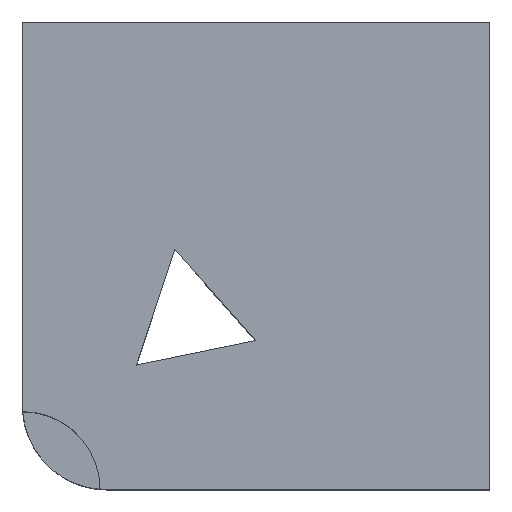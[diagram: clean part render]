
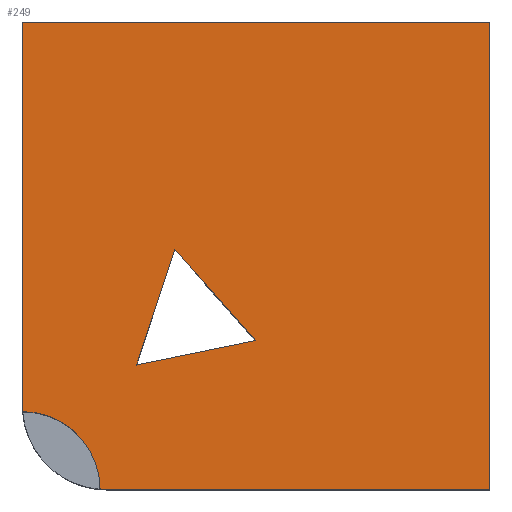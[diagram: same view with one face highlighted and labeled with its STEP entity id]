
A CAD part, top view. The second image highlights one B-rep face of the part: STEP entity #249.
In plain terms, the highlighted planar face has unit normal (0, 0, 1).
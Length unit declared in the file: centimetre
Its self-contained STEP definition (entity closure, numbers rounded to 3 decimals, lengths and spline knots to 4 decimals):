
#21 = LINE ( 'NONE', #276, #1113 ) ;
#23 = DIRECTION ( 'NONE',  ( 0., 0., 1. ) ) ;
#51 = EDGE_CURVE ( 'NONE', #309, #1109, #1362, .T. ) ;
#59 = AXIS2_PLACEMENT_3D ( 'NONE', #1436, #524, #1534 ) ;
#61 = DIRECTION ( 'NONE',  ( 1., 0., 0. ) ) ;
#72 = CARTESIAN_POINT ( 'NONE',  ( 1000., 1000., 1000. ) ) ;
#75 = FACE_BOUND ( 'NONE', #206, .T. ) ;
#81 = CARTESIAN_POINT ( 'NONE',  ( 1000., 0., 1000. ) ) ;
#85 = CARTESIAN_POINT ( 'NONE',  ( 0., 179.6337, 1000. ) ) ;
#90 = CIRCLE ( 'NONE', #1006, 166.1518 ) ;
#119 = VECTOR ( 'NONE', #557, 100. ) ;
#151 = DIRECTION ( 'NONE',  ( 1., 0., 0. ) ) ;
#153 = EDGE_CURVE ( 'NONE', #382, #1584, #21, .T. ) ;
#191 = CIRCLE ( 'NONE', #1115, 179.6337 ) ;
#202 = CARTESIAN_POINT ( 'NONE',  ( 0.5067, 166.151, 1000. ) ) ;
#206 = EDGE_LOOP ( 'NONE', ( #1414, #1523, #1412 ) ) ;
#227 = VERTEX_POINT ( 'NONE', #202 ) ;
#230 = LINE ( 'NONE', #734, #822 ) ;
#234 = VERTEX_POINT ( 'NONE', #85 ) ;
#249 = ADVANCED_FACE ( 'NONE', ( #1085, #75 ), #689, .T. ) ;
#276 = CARTESIAN_POINT ( 'NONE',  ( 0., 0., 1000. ) ) ;
#309 = VERTEX_POINT ( 'NONE', #1243 ) ;
#314 = AXIS2_PLACEMENT_3D ( 'NONE', #334, #1580, #833 ) ;
#334 = CARTESIAN_POINT ( 'NONE',  ( 0., 0., 1000. ) ) ;
#352 = LINE ( 'NONE', #858, #1475 ) ;
#379 = CARTESIAN_POINT ( 'NONE',  ( 179.6337, 179.6337, 1000. ) ) ;
#382 = VERTEX_POINT ( 'NONE', #1259 ) ;
#392 = VECTOR ( 'NONE', #1390, 100. ) ;
#403 = CARTESIAN_POINT ( 'NONE',  ( 244.0892, 265.7766, 1000. ) ) ;
#426 = VERTEX_POINT ( 'NONE', #528 ) ;
#432 = EDGE_CURVE ( 'NONE', #426, #309, #1544, .T. ) ;
#438 = CARTESIAN_POINT ( 'NONE',  ( 326.4505, 513.2893, 1000. ) ) ;
#463 = LINE ( 'NONE', #1000, #882 ) ;
#469 = VERTEX_POINT ( 'NONE', #1169 ) ;
#524 = DIRECTION ( 'NONE',  ( 0., 0., 1. ) ) ;
#528 = CARTESIAN_POINT ( 'NONE',  ( 499.6221, 318.206, 1000. ) ) ;
#530 = ORIENTED_EDGE ( 'NONE', *, *, #1367, .F. ) ;
#554 = DIRECTION ( 'NONE',  ( 0.316, 0.949, 0. ) ) ;
#557 = DIRECTION ( 'NONE',  ( 0., 1., 0. ) ) ;
#640 = VERTEX_POINT ( 'NONE', #72 ) ;
#689 = PLANE ( 'NONE',  #314 ) ;
#727 = EDGE_CURVE ( 'NONE', #1368, #234, #463, .T. ) ;
#734 = CARTESIAN_POINT ( 'NONE',  ( 0., 1000., 1000. ) ) ;
#769 = CIRCLE ( 'NONE', #59, 179.6337 ) ;
#784 = EDGE_CURVE ( 'NONE', #1109, #426, #352, .T. ) ;
#788 = EDGE_CURVE ( 'NONE', #640, #1368, #230, .T. ) ;
#803 = EDGE_CURVE ( 'NONE', #234, #227, #769, .T. ) ;
#814 = CARTESIAN_POINT ( 'NONE',  ( 326.4505, 513.2893, 1000. ) ) ;
#822 = VECTOR ( 'NONE', #1234, 100. ) ;
#833 = DIRECTION ( 'NONE',  ( 1., 0., 0. ) ) ;
#835 = EDGE_CURVE ( 'NONE', #469, #382, #191, .T. ) ;
#858 = CARTESIAN_POINT ( 'NONE',  ( 499.6221, 318.206, 1000. ) ) ;
#878 = CARTESIAN_POINT ( 'NONE',  ( 0., 0., 1000. ) ) ;
#882 = VECTOR ( 'NONE', #1125, 100. ) ;
#891 = EDGE_CURVE ( 'NONE', #1584, #640, #1278, .T. ) ;
#994 = DIRECTION ( 'NONE',  ( 1., 0., 0. ) ) ;
#1000 = CARTESIAN_POINT ( 'NONE',  ( 0., 1000., 1000. ) ) ;
#1006 = AXIS2_PLACEMENT_3D ( 'NONE', #878, #23, #151 ) ;
#1010 = CARTESIAN_POINT ( 'NONE',  ( 1000., 1000., 1000. ) ) ;
#1058 = ORIENTED_EDGE ( 'NONE', *, *, #803, .T. ) ;
#1085 = FACE_OUTER_BOUND ( 'NONE', #1149, .T. ) ;
#1109 = VERTEX_POINT ( 'NONE', #814 ) ;
#1113 = VECTOR ( 'NONE', #994, 100. ) ;
#1115 = AXIS2_PLACEMENT_3D ( 'NONE', #379, #1403, #61 ) ;
#1117 = ORIENTED_EDGE ( 'NONE', *, *, #788, .T. ) ;
#1125 = DIRECTION ( 'NONE',  ( 0., -1., 0. ) ) ;
#1149 = EDGE_LOOP ( 'NONE', ( #530, #1510, #1353, #1189, #1117, #1485, #1058 ) ) ;
#1169 = CARTESIAN_POINT ( 'NONE',  ( 166.151, 0.5067, 1000. ) ) ;
#1189 = ORIENTED_EDGE ( 'NONE', *, *, #891, .T. ) ;
#1234 = DIRECTION ( 'NONE',  ( -1., 0., 0. ) ) ;
#1243 = CARTESIAN_POINT ( 'NONE',  ( 244.0892, 265.7766, 1000. ) ) ;
#1259 = CARTESIAN_POINT ( 'NONE',  ( 179.6337, 0., 1000. ) ) ;
#1278 = LINE ( 'NONE', #1010, #119 ) ;
#1353 = ORIENTED_EDGE ( 'NONE', *, *, #153, .T. ) ;
#1362 = LINE ( 'NONE', #438, #1581 ) ;
#1367 = EDGE_CURVE ( 'NONE', #469, #227, #90, .T. ) ;
#1368 = VERTEX_POINT ( 'NONE', #1633 ) ;
#1372 = DIRECTION ( 'NONE',  ( 0.664, -0.748, 0. ) ) ;
#1390 = DIRECTION ( 'NONE',  ( -0.98, -0.201, 0. ) ) ;
#1403 = DIRECTION ( 'NONE',  ( 0., 0., 1. ) ) ;
#1412 = ORIENTED_EDGE ( 'NONE', *, *, #51, .T. ) ;
#1414 = ORIENTED_EDGE ( 'NONE', *, *, #784, .T. ) ;
#1436 = CARTESIAN_POINT ( 'NONE',  ( 179.6337, 179.6337, 1000. ) ) ;
#1475 = VECTOR ( 'NONE', #1372, 100. ) ;
#1485 = ORIENTED_EDGE ( 'NONE', *, *, #727, .T. ) ;
#1510 = ORIENTED_EDGE ( 'NONE', *, *, #835, .T. ) ;
#1523 = ORIENTED_EDGE ( 'NONE', *, *, #432, .T. ) ;
#1534 = DIRECTION ( 'NONE',  ( 1., 0., 0. ) ) ;
#1544 = LINE ( 'NONE', #403, #392 ) ;
#1580 = DIRECTION ( 'NONE',  ( 0., 0., 1. ) ) ;
#1581 = VECTOR ( 'NONE', #554, 100. ) ;
#1584 = VERTEX_POINT ( 'NONE', #81 ) ;
#1633 = CARTESIAN_POINT ( 'NONE',  ( 0., 1000., 1000. ) ) ;
